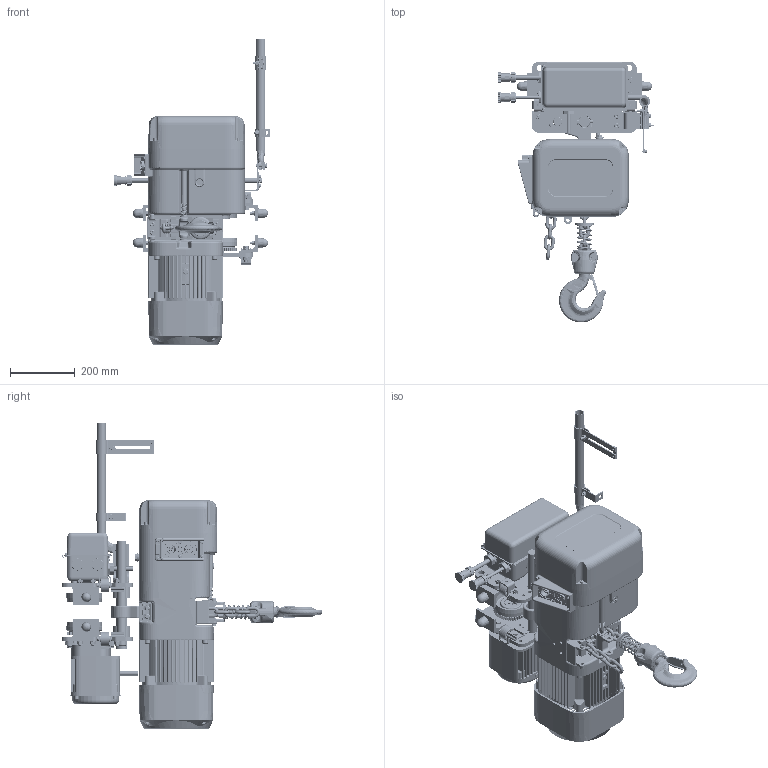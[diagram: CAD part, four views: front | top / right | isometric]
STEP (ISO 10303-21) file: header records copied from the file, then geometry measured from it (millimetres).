
FILE_DESCRIPTION (( 'STEP AP214' ), '1' );
FILE_NAME ('NER2M020S-L.STEP', '2026-08-06T13:10:44', ( '' ), ( '' ), 'SwSTEP 2.0', 'SolidWorks 2026', '' );
FILE_SCHEMA (( 'AUTOMOTIVE_DESIGN' ));
Length unit declared in the file: inch
Products named in the file (132): MR1DS9492; J1BG10604024_J1BG10604024; KITO-WASHER; MR1ES9202; ER2ES9337; 16-6 (MR2); MR1DS9496; MR1DS1301; basic external retaining ring_am_9047120; MR1DS9631; NER2020S_FOR MOTORIZED TROLLEY; ECP5924AC1; M6SE020S91013; MR1DS1493; ER2ES1011; hex nut style 1_am_9093424; MS1101020; hex cap screw_am_9093329; LCER2020NP; 16-4 (MR2); ER2ES9107_ER2ES9107; MS527010; MR1ES22111; ER1DL9051; MR2DS1768; 90912116_90912116; 9093427_9093427; ER2ES1002; hexagon slotted nut low_1 small_jis_L3183008; MR1DS9324; split pin (metric) as_9009414-5; ER2ES9015; 70130XX_7013001; spring lock washer_2_jis_9012712; MR1DS1491; MR1ES92151; ECP5924AB1; M6F554010; MS561010; ER2ES9031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
Assembly tree (319 placements, depth 6):
  NER2M020S-L
    MR2020L_4.66" FLANGE
      MR1ES5202
        MR1ES9202
        MR1ES9203  x2
        MR1ES9205
      MSF115020
      MS1101020  x2
        M6SE020S91013
        6304Z Bearing
        9047252_9047252
      MR1ES5201
        MR1ES9201
        MR1ES9203  x2
        MR1ES9204
      MS1102020  x2
        M6SE020S9102
        6304Z Bearing
        9047252_9047252
      MS006020  x4
      MR1ES12112  x2
        M7SE020S91422
        J1PS31-050025
        MR1ES22111
        MR2DS92171
        MR1ES92151
        MR1ES9218
      MR1ES12112_Reversed  x2
        M7SE020S91422
        J1PS31-050025
        MR1ES22111
        MR2DS92171
        MR1ES92151
        MR1ES9218
      9093351_9093351  x4
      spring lock washer_2_jis_9012712  x14
      9093427_9093427  x12
      MR1ES9634  x4
      9093352_9093352  x8
      MR1DS9631  x4
      single coil rectangular section spring washer_bsi_9012711  x8
      hex nut style 1_am_9093424  x4
      MS161020
      MS164020
      9009432_9009432
      MR1ES9131
      9009446_9009446  x2
      socket head cap screw_am_9091295  x2
      MR1DS1491
        MR1DS9491
        MR1DS9492
        MR1DS9501
        MR1DS1493
          MR1DS9493
          single coil rectangular section spring washer_bsi_9012711
          M6F554010  x2
          MR1DS9496
          hex nut style 1_am_9093424
          hex cap screw_am_9093329
        MR1DS1481
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Bounding box: 482.18 x 803.67 x 939.68 mm (x, y, z)
Volume: 32085779.4 mm3; surface area: 4174875.8 mm2
Topology: 354 solids, 371 shells, 15103 faces, 38360 edges, 24037 vertices
Faces by surface type: plane 6521, cylinder 4799, cone 1352, bspline 1162, torus 929, sphere 340
Entity records: 368733 total; most frequent: CARTESIAN_POINT 145177, ORIENTED_EDGE 45618, DIRECTION 44714, EDGE_CURVE 22811, AXIS2_PLACEMENT_3D 17231, VERTEX_POINT 14339, VECTOR 10252, LINE 10252
